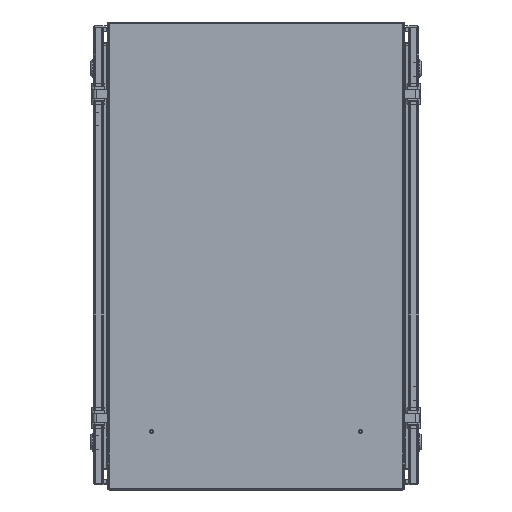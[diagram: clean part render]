
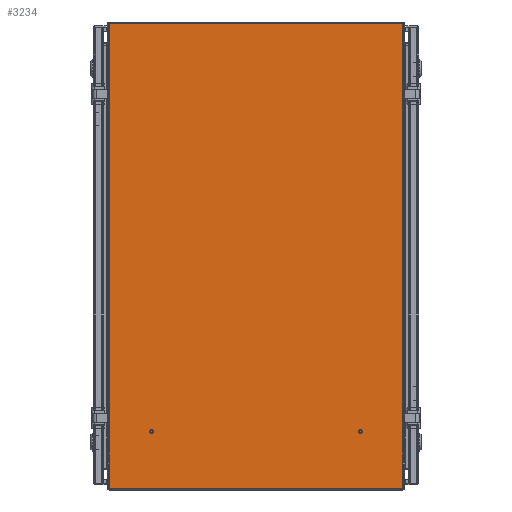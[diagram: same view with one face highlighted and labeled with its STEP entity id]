
A CAD part, left-side view. The second image highlights one B-rep face of the part: STEP entity #3234.
In plain terms, the highlighted planar face has unit normal (-1, 0, 0) as drawn and (1, 0, 0) by its records, which use the part's own axes.
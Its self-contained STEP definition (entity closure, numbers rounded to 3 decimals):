
#3234 = ADVANCED_FACE( '', ( #4890 ), #4891, .T. );
#4890 = FACE_OUTER_BOUND( '', #8584, .T. );
#4891 = PLANE( '', #8585 );
#8584 = EDGE_LOOP( '', ( #16134, #16135, #16136, #16137 ) );
#8585 = AXIS2_PLACEMENT_3D( '', #16138, #16139, #16140 );
#16134 = ORIENTED_EDGE( '', *, *, #22533, .T. );
#16135 = ORIENTED_EDGE( '', *, *, #22446, .T. );
#16136 = ORIENTED_EDGE( '', *, *, #22561, .T. );
#16137 = ORIENTED_EDGE( '', *, *, #22596, .F. );
#16138 = CARTESIAN_POINT( '', ( 608.686, 209.55, -329.286 ) );
#16139 = DIRECTION( '', ( 1., 0., 0. ) );
#16140 = DIRECTION( '', ( 0., 0., -1. ) );
#22446 = EDGE_CURVE( '', #25401, #25405, #25407, .T. );
#22533 = EDGE_CURVE( '', #25573, #25401, #25574, .T. );
#22561 = EDGE_CURVE( '', #25405, #25617, #25619, .T. );
#22596 = EDGE_CURVE( '', #25573, #25617, #25672, .T. );
#25401 = VERTEX_POINT( '', #30129 );
#25405 = VERTEX_POINT( '', #30134 );
#25407 = LINE( '', #30136, #30137 );
#25573 = VERTEX_POINT( '', #30393 );
#25574 = LINE( '', #30394, #30395 );
#25617 = VERTEX_POINT( '', #30523 );
#25619 = LINE( '', #30534, #30535 );
#25672 = LINE( '', #30643, #30644 );
#30129 = CARTESIAN_POINT( '', ( 608.686, 206.807, 326.542 ) );
#30134 = CARTESIAN_POINT( '', ( 608.686, -206.807, 326.542 ) );
#30136 = CARTESIAN_POINT( '', ( 608.686, 209.55, 326.542 ) );
#30137 = VECTOR( '', #36979, 1000. );
#30393 = CARTESIAN_POINT( '', ( 608.686, 206.807, -329.286 ) );
#30394 = CARTESIAN_POINT( '', ( 608.686, 206.807, -329.286 ) );
#30395 = VECTOR( '', #37108, 1000. );
#30523 = CARTESIAN_POINT( '', ( 608.686, -206.807, -329.286 ) );
#30534 = CARTESIAN_POINT( '', ( 608.686, -206.807, 326.542 ) );
#30535 = VECTOR( '', #37127, 1000. );
#30643 = CARTESIAN_POINT( '', ( 608.686, 209.55, -329.286 ) );
#30644 = VECTOR( '', #37165, 1000. );
#36979 = DIRECTION( '', ( 0., -1., 0. ) );
#37108 = DIRECTION( '', ( 0., 0., 1. ) );
#37127 = DIRECTION( '', ( 0., 0., -1. ) );
#37165 = DIRECTION( '', ( 0., -1., 0. ) );
